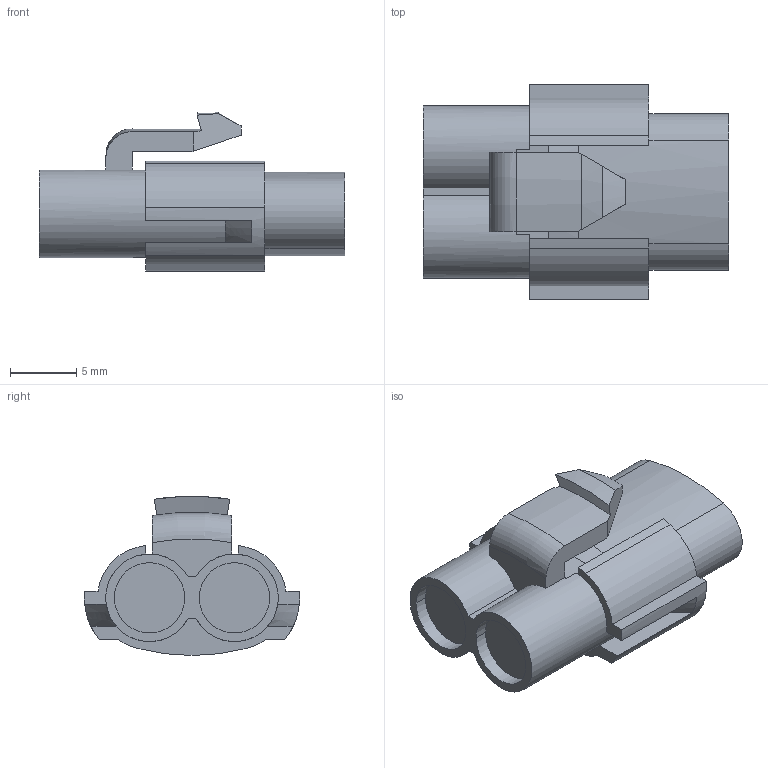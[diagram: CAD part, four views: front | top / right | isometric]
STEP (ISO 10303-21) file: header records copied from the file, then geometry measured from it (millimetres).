
FILE_DESCRIPTION(('CATIA V5 STEP Exchange','CAx-IF Rec.Pracs.--- Model Styling and Organization---1.2---2011-12-15'),'2;1');
FILE_NAME('N:\C-DAM_MyDesk\ENV\900093\6180-2191.stp','2015-01-27T00:36:58+00:00',('none'),('none'),'CATIA Version 5-6 Release 2012 SP4 HF74','CATIA V5 STEP AP214','none');
FILE_SCHEMA(('AUTOMOTIVE_DESIGN { 1 0 10303 214 1 1 1 1 }'));
Length unit declared in the file: millimetre
Products named in the file (1): 6180-2191
Bounding box: 23 x 16.22 x 11.99 mm (x, y, z)
Volume: 1869.7 mm3; surface area: 1327.7 mm2
Topology: 1 solids, 3 shells, 85 faces, 223 edges, 148 vertices
Faces by surface type: plane 54, cylinder 24, cone 4, bspline 2, torus 1
Entity records: 2505 total; most frequent: CARTESIAN_POINT 538, ORIENTED_EDGE 446, DIRECTION 315, EDGE_CURVE 223, VERTEX_POINT 148, VECTOR 138, LINE 138, AXIS2_PLACEMENT_3D 122
